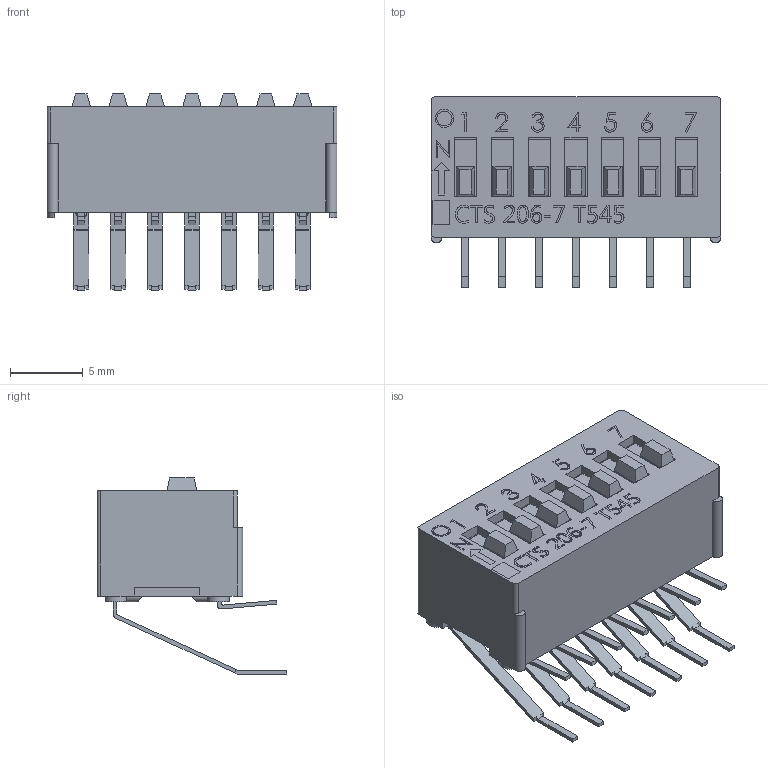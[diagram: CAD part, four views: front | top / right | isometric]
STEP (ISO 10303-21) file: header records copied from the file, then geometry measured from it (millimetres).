
FILE_DESCRIPTION (( 'STEP AP214' ), '1' );
FILE_NAME ('206-7RA.STEP', '2019-05-24T06:57:53', ( '' ), ( '' ), 'SwSTEP 2.0', 'SolidWorks 2019', '' );
FILE_SCHEMA (( 'AUTOMOTIVE_DESIGN' ));
Length unit declared in the file: millimetre
Products named in the file (4): 206-7RA; 206-56-014-35-01; 206-40-237-40-01(SPST-RA); 206007RAS- Base assly
Assembly tree (9 placements, depth 2):
  206-7RA
    206-40-237-40-01(SPST-RA)
    206-56-014-35-01  x7
    206007RAS- Base assly
Bounding box: 19.96 x 13.08 x 13.5 mm (x, y, z)
Volume: 877.8 mm3; surface area: 2814.1 mm2
Topology: 9 solids, 9 shells, 802 faces, 2160 edges, 1426 vertices
Faces by surface type: plane 593, bspline 109, cylinder 100
Entity records: 24368 total; most frequent: CARTESIAN_POINT 9939, ORIENTED_EDGE 3108, DIRECTION 2396, EDGE_CURVE 1554, VECTOR 1222, LINE 1222, VERTEX_POINT 1030, EDGE_LOOP 634
